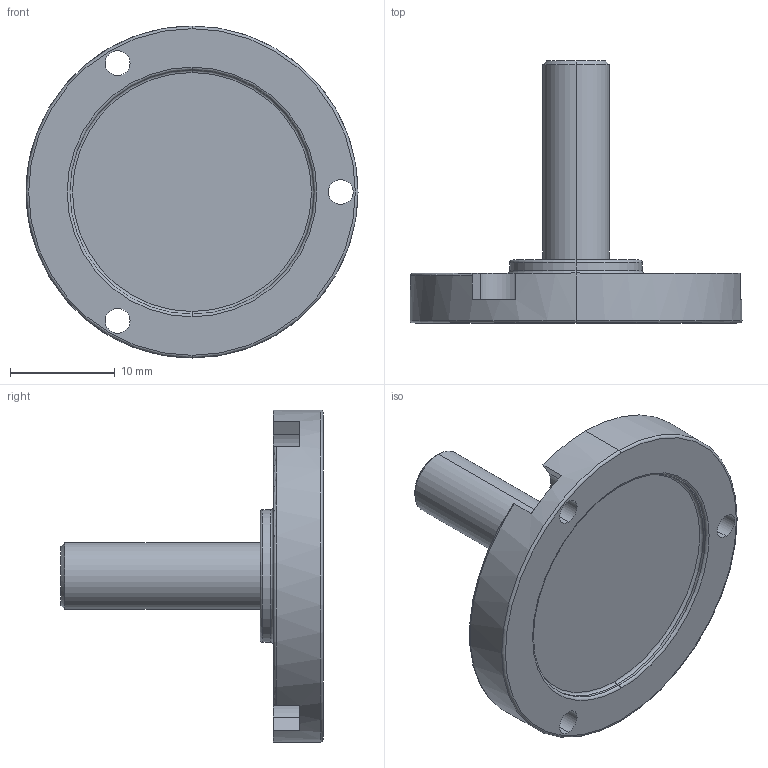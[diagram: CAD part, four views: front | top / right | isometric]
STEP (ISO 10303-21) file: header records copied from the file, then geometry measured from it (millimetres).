
FILE_DESCRIPTION (( 'STEP AP203' ), '1' );
FILE_NAME ('500-00863_2_Adapter, Tension, Mini, Male, SST, TX-125A.STEP', '2015-03-10T19:39:56', ( '' ), ( '' ), 'SwSTEP 2.0', 'SolidWorks 2013', '' );
FILE_SCHEMA (( 'CONFIG_CONTROL_DESIGN' ));
Length unit declared in the file: inch
Products named in the file (1): 500-00863_2_Adapter, Tension, Mini, Male, SST, TX-125A
Bounding box: 31.75 x 25.07 x 31.75 mm (x, y, z)
Volume: 4040.1 mm3; surface area: 2566.3 mm2
Topology: 1 solids, 1 shells, 45 faces, 108 edges, 68 vertices
Faces by surface type: cylinder 18, plane 14, torus 11, cone 2
Entity records: 1428 total; most frequent: DIRECTION 263, CARTESIAN_POINT 232, ORIENTED_EDGE 216, AXIS2_PLACEMENT_3D 111, EDGE_CURVE 108, VERTEX_POINT 68, CIRCLE 65, EDGE_LOOP 54
